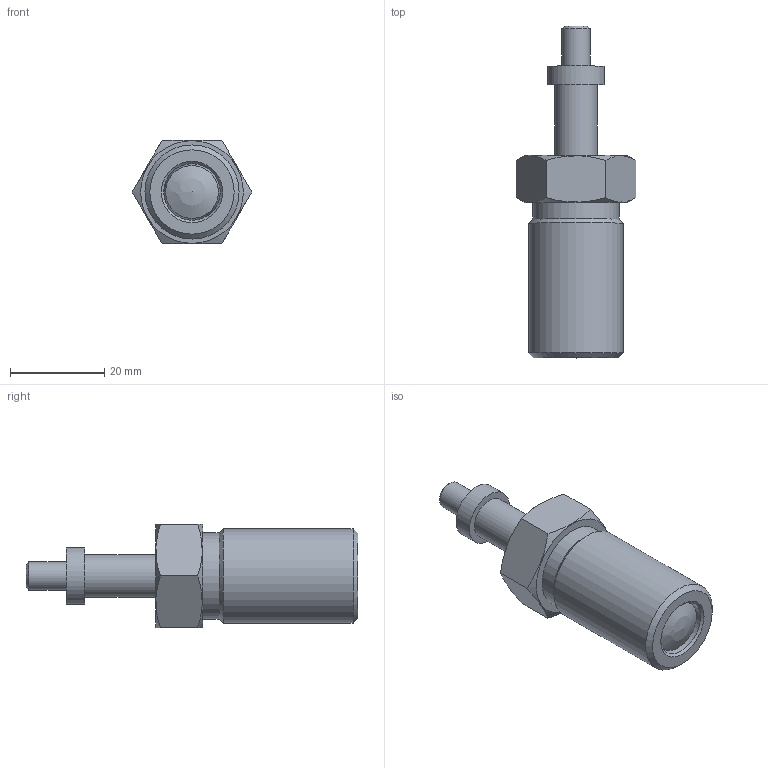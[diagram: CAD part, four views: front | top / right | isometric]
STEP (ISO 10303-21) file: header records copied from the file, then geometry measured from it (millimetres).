
FILE_DESCRIPTION( ( 'STEP AP203' ), '1' );
FILE_NAME( 'C:/Temp/Ganter_Step_05_03_2020/data/3_1/gn817/gn817_ni-rastbolzen/Stainless steel-Indexing plunger GN 817-12-15-G-NI (activated).stp', '2020-03-12T08:59:53', ( 'License CC BY-ND 4.0' ), ( 'CADENAS' ), ' ', 'PARTsolutions', ' ' );
FILE_SCHEMA( ( 'CONFIG_CONTROL_DESIGN' ) );
Length unit declared in the file: millimetre
Products named in the file (4): Stainless steel-Indexing plunger GN 817-12-15-G-NI (activated); _Stainless steel-Indexing plunger GN 817-12-15-G-NI (activated)-d2; _Stainless steel-Indexing plunger GN 817-12-15-B-NI-2; _Stainless Steel-Indexing plunger GN 817-12-15-G-NI-6
Assembly tree (3 placements, depth 2):
  Stainless steel-Indexing plunger GN 817-12-15-G-NI (activated)
    _Stainless steel-Indexing plunger GN 817-12-15-G-NI (activated)-d2
    _Stainless steel-Indexing plunger GN 817-12-15-B-NI-2
    _Stainless Steel-Indexing plunger GN 817-12-15-G-NI-6
Bounding box: 25.4 x 70.5 x 22 mm (x, y, z)
Volume: 15833.4 mm3; surface area: 7647.4 mm2
Topology: 2 solids, 2 shells, 33 faces, 66 edges, 42 vertices
Faces by surface type: plane 14, cone 8, cylinder 8, torus 2, sphere 1
Full cylindrical faces by diameter (mm): 6 x1, 9 x2, 12 x3, 18.3 x1, 20 x1
Entity records: 979 total; most frequent: CARTESIAN_POINT 251, DIRECTION 130, ORIENTED_EDGE 86, AXIS2_PLACEMENT_3D 62, EDGE_LOOP 58, FACE_OUTER_BOUND 43, EDGE_CURVE 43, VERTEX_POINT 38
